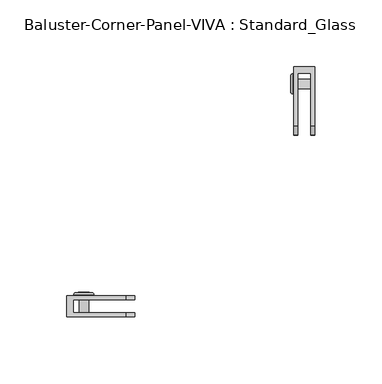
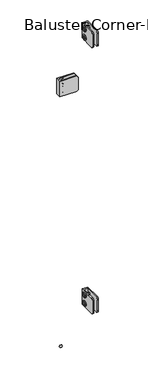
"""IFC4 building model written with IfcOpenShell, lengths in millimetres: railing geometry, Baluster-Corner-Panel-VIVA : Standard_Glass."""

from ifc_helpers import new_model, si_unit, point, frame, origin, place, context, project, spatial, polyline, circle_curve, ellipse_curve, trimmed, outline, extrude, source, transform, mapped, element, save
from ifc_brep_helpers import plane_surface, cylinder_surface, revolved_surface, advanced_brep


def baluster_corner_panel_viva_standard_glass_794ac712(model_context):
    return source(origin(), model_context, "Body", "SolidModel", [
        extrude(outline(polyline([(138.3474575, 917.178125), (136.3004934, 913.6326791), (132.2065651, 913.6326791), (130.1596009, 917.178125), (132.2065651, 920.7235709), (136.3004934, 920.7235709), (138.3474575, 917.178125)])), frame((21.7024185, 0.0, 0.0), z_axis=(1.0, 0.0, 0.0), x_axis=(0.0, 1.0, 0.0)), (0.0, 0.0, 1.0), 1.4969696),
        advanced_brep(
        [(36.7665, 137.7989752, 917.178125), (36.7665, 130.7080833, 917.178125), (24.0665, 130.7080833, 917.178125), (24.0665, 137.7989752, 917.178125), (24.0665, 126.8457402, 917.178125), (24.0665, 141.6613183, 917.178125), (23.199388, 135.9096046, 917.178125), (23.199388, 132.5974539, 917.178125), (36.7665, 132.5974539, 917.178125), (36.7665, 135.9096046, 917.178125), (23.2316551, 141.6613183, 917.178125), (23.2316551, 126.8457402, 917.178125), (21.9503831, 128.1270122, 917.178125), (21.9503831, 140.3800463, 917.178125), (21.9503831, 129.9549337, 917.178125), (21.9503831, 138.5521248, 917.178125), (23.199388, 129.9549337, 917.178125), (23.199388, 138.5521248, 917.178125)],
        [
            (0, 1, circle_curve(frame((36.7665, 134.2535292, 917.178125), z_axis=(-1.0, 0.0, 0.0), x_axis=(0.0, -1.0, 0.0)), 3.5454459)),
            (1, 2),
            (2, 3, circle_curve(frame((24.0665, 134.2535292, 917.178125), z_axis=(1.0, 0.0, 0.0), x_axis=(0.0, -1.0, 0.0)), 3.5454459)),
            (3, 0),
            (1, 0, circle_curve(frame((36.7665, 134.2535292, 917.178125), z_axis=(-1.0, 0.0, 0.0), x_axis=(0.0, -1.0, 0.0)), 3.5454459)),
            (3, 2, circle_curve(frame((24.0665, 134.2535292, 917.178125), z_axis=(1.0, 0.0, 0.0), x_axis=(0.0, -1.0, 0.0)), 3.5454459)),
            (2, 4),
            (4, 5, circle_curve(frame((24.0665, 134.2535292, 917.178125), z_axis=(1.0, 0.0, 0.0), x_axis=(0.0, -1.0, 0.0)), 7.4077891)),
            (5, 3),
            (5, 4, circle_curve(frame((24.0665, 134.2535292, 917.178125), z_axis=(1.0, 0.0, 0.0), x_axis=(0.0, -1.0, 0.0)), 7.4077891)),
            (6, 7, circle_curve(frame((23.199388, 134.2535292, 917.178125), z_axis=(-1.0, 0.0, 0.0), x_axis=(0.0, -1.0, 0.0)), 1.6560754)),
            (7, 8),
            (8, 9, circle_curve(frame((36.7665, 134.2535292, 917.178125), z_axis=(1.0, 0.0, 0.0), x_axis=(0.0, -1.0, 0.0)), 1.6560754)),
            (9, 6),
            (7, 6, circle_curve(frame((23.199388, 134.2535292, 917.178125), z_axis=(-1.0, 0.0, 0.0), x_axis=(0.0, -1.0, 0.0)), 1.6560754)),
            (9, 8, circle_curve(frame((36.7665, 134.2535292, 917.178125), z_axis=(1.0, 0.0, 0.0), x_axis=(0.0, -1.0, 0.0)), 1.6560754)),
            (10, 11, circle_curve(frame((23.2316551, 134.2535292, 917.178125), z_axis=(-1.0, 0.0, 0.0), x_axis=(0.0, -1.0, 0.0)), 7.4077891)),
            (11, 12, circle_curve(frame((23.2316551, 128.1270122, 917.178125), z_axis=(0.0, 0.0, -1.0), x_axis=(0.0, -1.0, 0.0)), 1.281272)),
            (12, 13, circle_curve(frame((21.9503831, 134.2535292, 917.178125), z_axis=(1.0, 0.0, 0.0), x_axis=(0.0, -1.0, 0.0)), 6.1265171)),
            (13, 10, circle_curve(frame((23.2316551, 140.3800463, 917.178125), z_axis=(0.0, 0.0, -1.0), x_axis=(0.0, 1.0, 0.0)), 1.281272)),
            (11, 10, circle_curve(frame((23.2316551, 134.2535292, 917.178125), z_axis=(-1.0, 0.0, 0.0), x_axis=(0.0, -1.0, 0.0)), 7.4077891)),
            (13, 12, circle_curve(frame((21.9503831, 134.2535292, 917.178125), z_axis=(1.0, 0.0, 0.0), x_axis=(0.0, -1.0, 0.0)), 6.1265171)),
            (12, 14),
            (14, 15, circle_curve(frame((21.9503831, 134.2535292, 917.178125), z_axis=(1.0, 0.0, 0.0), x_axis=(0.0, -1.0, 0.0)), 4.2985955)),
            (15, 13),
            (15, 14, circle_curve(frame((21.9503831, 134.2535292, 917.178125), z_axis=(1.0, 0.0, 0.0), x_axis=(0.0, -1.0, 0.0)), 4.2985955)),
            (4, 11),
            (10, 5),
            (8, 1),
            (0, 9),
            (14, 16),
            (16, 17, circle_curve(frame((23.199388, 134.2535292, 917.178125), z_axis=(1.0, 0.0, 0.0), x_axis=(0.0, -1.0, 0.0)), 4.2985955)),
            (17, 15),
            (17, 16, circle_curve(frame((23.199388, 134.2535292, 917.178125), z_axis=(1.0, 0.0, 0.0), x_axis=(0.0, -1.0, 0.0)), 4.2985955)),
            (16, 7),
            (6, 17),
        ],
        [
            cylinder_surface(frame((27.5632331, 134.2535292, 917.178125), z_axis=(1.0, 0.0, 0.0), x_axis=(0.0, -1.0, 0.0)), 3.5454459),
            plane_surface(frame((24.0665, 134.2535292, 917.178125), z_axis=(1.0, 0.0, 0.0), x_axis=(0.0, -1.0, 0.0))),
            revolved_surface(polyline([(36.7665, 132.5974538, 917.178125), (23.199388, 132.5974538, 917.178125)]), (27.5632331, 134.2535292, 917.178125), (1.0, 0.0, 0.0)),
            revolved_surface(trimmed(ellipse_curve(frame((23.2316551, 128.1270122, 917.178125), z_axis=(0.0, 0.0, 1.0), x_axis=(0.0, -1.0, 0.0)), 1.281272, 1.281272), [point((21.9503831, 128.1270122, 917.178125))], [point((23.2316551, 126.8457402, 917.178125))], True, "CARTESIAN"), (27.5632331, 134.2535292, 917.178125), (1.0, 0.0, 0.0)),
            plane_surface(frame((21.9503831, 134.2535292, 917.178125), z_axis=(-1.0, 0.0, 0.0), x_axis=(0.0, -1.0, 0.0))),
            cylinder_surface(frame((27.5632331, 134.2535292, 917.178125), z_axis=(1.0, 0.0, 0.0), x_axis=(0.0, -1.0, 0.0)), 7.4077891),
            plane_surface(frame((36.7665, 134.2535292, 917.178125), z_axis=(1.0, 0.0, 0.0), x_axis=(0.0, -1.0, 0.0))),
            revolved_surface(polyline([(23.199388, 129.9549337, 917.178125), (21.9503831, 129.9549337, 917.178125)]), (27.5632331, 134.2535292, 917.178125), (1.0, 0.0, 0.0)),
            plane_surface(frame((23.199388, 134.2535292, 917.178125), z_axis=(-1.0, 0.0, 0.0), x_axis=(0.0, -1.0, 0.0))),
        ],
        [
            (0, [[1, 2, 3, 4]]),
            (0, [[5, -4, 6, -2]]),
            (1, [[-3, 7, 8, 9]]),
            (1, [[-6, -9, 10, -7]]),
            (2, [[11, 12, 13, 14]]),
            (2, [[15, -14, 16, -12]]),
            (3, [[17, 18, 19, 20]]),
            (3, [[21, -20, 22, -18]]),
            (4, [[-19, 23, 24, 25]]),
            (4, [[-22, -25, 26, -23]]),
            (5, [[-8, 27, -17, 28]]),
            (5, [[-10, -28, -21, -27]]),
            (6, [[-13, 29, -1, 30]]),
            (6, [[-16, -30, -5, -29]]),
            (7, [[-24, 31, 32, 33]]),
            (7, [[-26, -33, 34, -31]]),
            (8, [[-32, 35, -11, 36]]),
            (8, [[-34, -36, -15, -35]]),
        ],
    ),
        advanced_brep(
        [(36.7665, 137.7989752, 892.571875), (36.7665, 130.7080833, 892.571875), (24.0665, 130.7080833, 892.571875), (24.0665, 137.7989752, 892.571875), (24.0665, 126.8457402, 892.571875), (24.0665, 141.6613183, 892.571875), (23.199388, 135.9096046, 892.571875), (23.199388, 132.5974539, 892.571875), (36.7665, 132.5974539, 892.571875), (36.7665, 135.9096046, 892.571875), (23.2316551, 141.6613183, 892.571875), (23.2316551, 126.8457402, 892.571875), (21.9503831, 128.1270122, 892.571875), (21.9503831, 140.3800463, 892.571875), (21.9503831, 129.9549337, 892.571875), (21.9503831, 138.5521248, 892.571875), (23.199388, 129.9549337, 892.571875), (23.199388, 138.5521248, 892.571875)],
        [
            (0, 1, circle_curve(frame((36.7665, 134.2535292, 892.571875), z_axis=(-1.0, 0.0, 0.0), x_axis=(0.0, -1.0, 0.0)), 3.5454459)),
            (1, 2),
            (2, 3, circle_curve(frame((24.0665, 134.2535292, 892.571875), z_axis=(1.0, 0.0, 0.0), x_axis=(0.0, -1.0, 0.0)), 3.5454459)),
            (3, 0),
            (1, 0, circle_curve(frame((36.7665, 134.2535292, 892.571875), z_axis=(-1.0, 0.0, 0.0), x_axis=(0.0, -1.0, 0.0)), 3.5454459)),
            (3, 2, circle_curve(frame((24.0665, 134.2535292, 892.571875), z_axis=(1.0, 0.0, 0.0), x_axis=(0.0, -1.0, 0.0)), 3.5454459)),
            (2, 4),
            (4, 5, circle_curve(frame((24.0665, 134.2535292, 892.571875), z_axis=(1.0, 0.0, 0.0), x_axis=(0.0, -1.0, 0.0)), 7.4077891)),
            (5, 3),
            (5, 4, circle_curve(frame((24.0665, 134.2535292, 892.571875), z_axis=(1.0, 0.0, 0.0), x_axis=(0.0, -1.0, 0.0)), 7.4077891)),
            (6, 7, circle_curve(frame((23.199388, 134.2535292, 892.571875), z_axis=(-1.0, 0.0, 0.0), x_axis=(0.0, -1.0, 0.0)), 1.6560754)),
            (7, 8),
            (8, 9, circle_curve(frame((36.7665, 134.2535292, 892.571875), z_axis=(1.0, 0.0, 0.0), x_axis=(0.0, -1.0, 0.0)), 1.6560754)),
            (9, 6),
            (7, 6, circle_curve(frame((23.199388, 134.2535292, 892.571875), z_axis=(-1.0, 0.0, 0.0), x_axis=(0.0, -1.0, 0.0)), 1.6560754)),
            (9, 8, circle_curve(frame((36.7665, 134.2535292, 892.571875), z_axis=(1.0, 0.0, 0.0), x_axis=(0.0, -1.0, 0.0)), 1.6560754)),
            (10, 11, circle_curve(frame((23.2316551, 134.2535292, 892.571875), z_axis=(-1.0, 0.0, 0.0), x_axis=(0.0, -1.0, 0.0)), 7.4077891)),
            (11, 12, circle_curve(frame((23.2316551, 128.1270122, 892.571875), z_axis=(0.0, 0.0, -1.0), x_axis=(0.0, -1.0, 0.0)), 1.281272)),
            (12, 13, circle_curve(frame((21.9503831, 134.2535292, 892.571875), z_axis=(1.0, 0.0, 0.0), x_axis=(0.0, -1.0, 0.0)), 6.1265171)),
            (13, 10, circle_curve(frame((23.2316551, 140.3800463, 892.571875), z_axis=(0.0, 0.0, -1.0), x_axis=(0.0, 1.0, 0.0)), 1.281272)),
            (11, 10, circle_curve(frame((23.2316551, 134.2535292, 892.571875), z_axis=(-1.0, 0.0, 0.0), x_axis=(0.0, -1.0, 0.0)), 7.4077891)),
            (13, 12, circle_curve(frame((21.9503831, 134.2535292, 892.571875), z_axis=(1.0, 0.0, 0.0), x_axis=(0.0, -1.0, 0.0)), 6.1265171)),
            (12, 14),
            (14, 15, circle_curve(frame((21.9503831, 134.2535292, 892.571875), z_axis=(1.0, 0.0, 0.0), x_axis=(0.0, -1.0, 0.0)), 4.2985955)),
            (15, 13),
            (15, 14, circle_curve(frame((21.9503831, 134.2535292, 892.571875), z_axis=(1.0, 0.0, 0.0), x_axis=(0.0, -1.0, 0.0)), 4.2985955)),
            (8, 1),
            (0, 9),
            (4, 11),
            (10, 5),
            (14, 16),
            (16, 17, circle_curve(frame((23.199388, 134.2535292, 892.571875), z_axis=(1.0, 0.0, 0.0), x_axis=(0.0, -1.0, 0.0)), 4.2985955)),
            (17, 15),
            (17, 16, circle_curve(frame((23.199388, 134.2535292, 892.571875), z_axis=(1.0, 0.0, 0.0), x_axis=(0.0, -1.0, 0.0)), 4.2985955)),
            (16, 7),
            (6, 17),
        ],
        [
            cylinder_surface(frame((27.5632331, 134.2535292, 892.571875), z_axis=(1.0, 0.0, 0.0), x_axis=(0.0, -1.0, 0.0)), 3.5454459),
            plane_surface(frame((24.0665, 134.2535292, 892.571875), z_axis=(1.0, 0.0, 0.0), x_axis=(0.0, -1.0, 0.0))),
            revolved_surface(polyline([(36.7665, 132.5974538, 892.571875), (23.199388, 132.5974538, 892.571875)]), (27.5632331, 134.2535292, 892.571875), (1.0, 0.0, 0.0)),
            revolved_surface(trimmed(ellipse_curve(frame((23.2316551, 128.1270122, 892.571875), z_axis=(0.0, 0.0, 1.0), x_axis=(0.0, -1.0, 0.0)), 1.281272, 1.281272), [point((21.9503831, 128.1270122, 892.571875))], [point((23.2316551, 126.8457402, 892.571875))], True, "CARTESIAN"), (27.5632331, 134.2535292, 892.571875), (1.0, 0.0, 0.0)),
            plane_surface(frame((21.9503831, 134.2535292, 892.571875), z_axis=(-1.0, 0.0, 0.0), x_axis=(0.0, -1.0, 0.0))),
            plane_surface(frame((36.7665, 134.2535292, 892.571875), z_axis=(1.0, 0.0, 0.0), x_axis=(0.0, -1.0, 0.0))),
            cylinder_surface(frame((27.5632331, 134.2535292, 892.571875), z_axis=(1.0, 0.0, 0.0), x_axis=(0.0, -1.0, 0.0)), 7.4077891),
            revolved_surface(polyline([(23.199388, 129.9549337, 892.571875), (21.9503831, 129.9549337, 892.571875)]), (27.5632331, 134.2535292, 892.571875), (1.0, 0.0, 0.0)),
            plane_surface(frame((23.199388, 134.2535292, 892.571875), z_axis=(-1.0, 0.0, 0.0), x_axis=(0.0, -1.0, 0.0))),
        ],
        [
            (0, [[1, 2, 3, 4]]),
            (0, [[5, -4, 6, -2]]),
            (1, [[-3, 7, 8, 9]]),
            (1, [[-6, -9, 10, -7]]),
            (2, [[11, 12, 13, 14]]),
            (2, [[15, -14, 16, -12]]),
            (3, [[17, 18, 19, 20]]),
            (3, [[21, -20, 22, -18]]),
            (4, [[-19, 23, 24, 25]]),
            (4, [[-22, -25, 26, -23]]),
            (5, [[-13, 27, -1, 28]]),
            (5, [[-16, -28, -5, -27]]),
            (6, [[-8, 29, -17, 30]]),
            (6, [[-10, -30, -21, -29]]),
            (7, [[-24, 31, 32, 33]]),
            (7, [[-26, -33, 34, -31]]),
            (8, [[-32, 35, -11, 36]]),
            (8, [[-34, -36, -15, -35]]),
        ],
    ),
        extrude(outline(polyline([(138.3474575, 892.571875), (136.3004934, 889.0264291), (132.2065651, 889.0264291), (130.1596009, 892.571875), (132.2065651, 896.1173209), (136.3004934, 896.1173209), (138.3474575, 892.571875)])), frame((21.7024185, 0.0, 0.0), z_axis=(1.0, 0.0, 0.0), x_axis=(0.0, 1.0, 0.0)), (0.0, 0.0, 1.0), 1.4969696),
        advanced_brep(
        [(24.0665, 146.886874, 927.1), (24.0665, 146.886874, 882.65), (24.0665, 102.436874, 882.65), (24.0665, 96.086874, 889.0), (24.0665, 96.086874, 920.75), (24.0665, 102.436874, 927.1), (39.9415, 146.886874, 927.1), (39.9415, 102.436874, 927.1), (39.9415, 96.086874, 920.75), (39.9415, 96.086874, 889.0), (39.9415, 102.436874, 882.65), (39.9415, 146.886874, 882.65), (36.7665, 102.436874, 882.65), (36.7665, 142.1687936, 882.65), (27.2415, 142.1687936, 882.65), (27.2415, 102.436874, 882.65), (36.7665, 142.1687936, 927.1), (27.2415, 142.1687936, 927.1), (27.2415, 102.436874, 927.1), (27.2415, 96.086874, 920.75), (27.2415, 96.086874, 889.0), (36.7665, 96.086874, 889.0), (36.7665, 96.086874, 920.75), (36.7665, 102.436874, 927.1)],
        [
            (0, 1),
            (1, 2),
            (2, 3, circle_curve(frame((24.0665, 102.436874, 889.0), z_axis=(-1.0, 0.0, 0.0), x_axis=(0.0, -1.0, 0.0)), 6.35)),
            (3, 4),
            (4, 5, circle_curve(frame((24.0665, 102.436874, 920.75), z_axis=(-1.0, 0.0, 0.0), x_axis=(0.0, -1.0, 0.0)), 6.35)),
            (5, 0),
            (6, 7),
            (7, 8, circle_curve(frame((39.9415, 102.436874, 920.75), z_axis=(1.0, 0.0, 0.0), x_axis=(0.0, -1.0, 0.0)), 6.35)),
            (8, 9),
            (9, 10, circle_curve(frame((39.9415, 102.436874, 889.0), z_axis=(1.0, 0.0, 0.0), x_axis=(0.0, -1.0, 0.0)), 6.35)),
            (10, 11),
            (11, 6),
            (0, 6),
            (11, 1),
            (10, 12),
            (12, 13),
            (13, 14),
            (14, 15),
            (15, 2),
            (13, 16),
            (16, 17),
            (17, 14),
            (17, 18),
            (18, 19, circle_curve(frame((27.2415, 102.436874, 920.75), z_axis=(1.0, 0.0, 0.0), x_axis=(0.0, -1.0, 0.0)), 6.35)),
            (19, 20),
            (20, 15, circle_curve(frame((27.2415, 102.436874, 889.0), z_axis=(1.0, 0.0, 0.0), x_axis=(0.0, -1.0, 0.0)), 6.35)),
            (12, 21, circle_curve(frame((36.7665, 102.436874, 889.0), z_axis=(-1.0, 0.0, 0.0), x_axis=(0.0, -1.0, 0.0)), 6.35)),
            (21, 22),
            (22, 23, circle_curve(frame((36.7665, 102.436874, 920.75), z_axis=(-1.0, 0.0, 0.0), x_axis=(0.0, -1.0, 0.0)), 6.35)),
            (23, 16),
            (20, 3),
            (9, 21),
            (19, 4),
            (8, 22),
            (18, 5),
            (7, 23),
        ],
        [
            plane_surface(frame((24.0665, 146.886874, 882.65), z_axis=(-1.0, 0.0, 0.0), x_axis=(0.0, 0.0, -1.0))),
            plane_surface(frame((39.9415, 146.886874, 882.65), z_axis=(1.0, 0.0, 0.0), x_axis=(0.0, 0.0, 1.0))),
            plane_surface(frame((24.0665, 146.886874, 927.1), z_axis=(0.0, 1.0, 0.0), x_axis=(1.0, 0.0, 0.0))),
            plane_surface(frame((24.0665, 146.886874, 882.65), z_axis=(0.0, 0.0, -1.0), x_axis=(1.0, 0.0, 0.0))),
            plane_surface(frame((36.7665, 142.1687936, 939.8), z_axis=(0.0, -1.0, 0.0), x_axis=(0.0, 0.0, -1.0))),
            plane_surface(frame((27.2415, 142.1687936, 939.8), z_axis=(1.0, 0.0, 0.0), x_axis=(0.0, 0.0, -1.0))),
            plane_surface(frame((36.7665, 83.386874, 939.8), z_axis=(-1.0, 0.0, 0.0), x_axis=(0.0, 0.0, -1.0))),
            cylinder_surface(frame((39.9415, 102.436874, 889.0), z_axis=(-1.0, 0.0, 0.0), x_axis=(0.0, -1.0, 0.0)), 6.35),
            plane_surface(frame((24.0665, 96.086874, 889.0), z_axis=(0.0, -1.0, 0.0), x_axis=(1.0, 0.0, 0.0))),
            cylinder_surface(frame((39.9415, 102.436874, 920.75), z_axis=(-1.0, 0.0, 0.0), x_axis=(0.0, -1.0, 0.0)), 6.35),
            plane_surface(frame((24.0665, 102.436874, 927.1), z_axis=(0.0, 0.0, 1.0), x_axis=(1.0, 0.0, 0.0))),
        ],
        [
            (0, [[1, 2, 3, 4, 5, 6]]),
            (1, [[7, 8, 9, 10, 11, 12]]),
            (2, [[-1, 13, -12, 14]]),
            (3, [[-2, -14, -11, 15, 16, 17, 18, 19]]),
            (4, [[20, 21, 22, -17]]),
            (5, [[-22, 23, 24, 25, 26, -18]]),
            (6, [[-20, -16, 27, 28, 29, 30]]),
            (7, [[-3, -19, -26, 31]]),
            (7, [[-10, 32, -27, -15]]),
            (8, [[-4, -31, -25, 33]]),
            (8, [[-9, 34, -28, -32]]),
            (9, [[-5, -33, -24, 35]]),
            (9, [[-8, 36, -29, -34]]),
            (10, [[-6, -35, -23, -21, -30, -36, -7, -13]]),
        ],
    ),
        extrude(outline(polyline([(138.3474575, 138.7358896), (136.3004934, 135.1904437), (132.2065651, 135.1904437), (130.1596009, 138.7358896), (132.2065651, 142.2813355), (136.3004934, 142.2813355), (138.3474575, 138.7358896)])), frame((21.7024185, 0.0, 0.0), z_axis=(1.0, 0.0, 0.0), x_axis=(0.0, 1.0, 0.0)), (0.0, 0.0, 1.0), 1.4969696),
        advanced_brep(
        [(36.7665, 137.7989752, 138.7358896), (36.7665, 130.7080833, 138.7358896), (24.0665, 130.7080833, 138.7358896), (24.0665, 137.7989752, 138.7358896), (24.0665, 126.8457402, 138.7358896), (24.0665, 141.6613183, 138.7358896), (23.199388, 135.9096046, 138.7358896), (23.199388, 132.5974539, 138.7358896), (36.7665, 132.5974539, 138.7358896), (36.7665, 135.9096046, 138.7358896), (23.2316551, 141.6613183, 138.7358896), (23.2316551, 126.8457402, 138.7358896), (21.9503831, 128.1270122, 138.7358896), (21.9503831, 140.3800463, 138.7358896), (21.9503831, 129.9549337, 138.7358896), (21.9503831, 138.5521248, 138.7358896), (23.199388, 129.9549337, 138.7358896), (23.199388, 138.5521248, 138.7358896)],
        [
            (0, 1, circle_curve(frame((36.7665, 134.2535292, 138.7358896), z_axis=(-1.0, 0.0, 0.0), x_axis=(0.0, -1.0, 0.0)), 3.5454459)),
            (1, 2),
            (2, 3, circle_curve(frame((24.0665, 134.2535292, 138.7358896), z_axis=(1.0, 0.0, 0.0), x_axis=(0.0, -1.0, 0.0)), 3.5454459)),
            (3, 0),
            (1, 0, circle_curve(frame((36.7665, 134.2535292, 138.7358896), z_axis=(-1.0, 0.0, 0.0), x_axis=(0.0, -1.0, 0.0)), 3.5454459)),
            (3, 2, circle_curve(frame((24.0665, 134.2535292, 138.7358896), z_axis=(1.0, 0.0, 0.0), x_axis=(0.0, -1.0, 0.0)), 3.5454459)),
            (2, 4),
            (4, 5, circle_curve(frame((24.0665, 134.2535292, 138.7358896), z_axis=(1.0, 0.0, 0.0), x_axis=(0.0, -1.0, 0.0)), 7.4077891)),
            (5, 3),
            (5, 4, circle_curve(frame((24.0665, 134.2535292, 138.7358896), z_axis=(1.0, 0.0, 0.0), x_axis=(0.0, -1.0, 0.0)), 7.4077891)),
            (6, 7, circle_curve(frame((23.199388, 134.2535292, 138.7358896), z_axis=(-1.0, 0.0, 0.0), x_axis=(0.0, -1.0, 0.0)), 1.6560754)),
            (7, 8),
            (8, 9, circle_curve(frame((36.7665, 134.2535292, 138.7358896), z_axis=(1.0, 0.0, 0.0), x_axis=(0.0, -1.0, 0.0)), 1.6560754)),
            (9, 6),
            (7, 6, circle_curve(frame((23.199388, 134.2535292, 138.7358896), z_axis=(-1.0, 0.0, 0.0), x_axis=(0.0, -1.0, 0.0)), 1.6560754)),
            (9, 8, circle_curve(frame((36.7665, 134.2535292, 138.7358896), z_axis=(1.0, 0.0, 0.0), x_axis=(0.0, -1.0, 0.0)), 1.6560754)),
            (10, 11, circle_curve(frame((23.2316551, 134.2535292, 138.7358896), z_axis=(-1.0, 0.0, 0.0), x_axis=(0.0, -1.0, 0.0)), 7.4077891)),
            (11, 12, circle_curve(frame((23.2316551, 128.1270122, 138.7358896), z_axis=(0.0, 0.0, -1.0), x_axis=(0.0, -1.0, 0.0)), 1.281272)),
            (12, 13, circle_curve(frame((21.9503831, 134.2535292, 138.7358896), z_axis=(1.0, 0.0, 0.0), x_axis=(0.0, -1.0, 0.0)), 6.1265171)),
            (13, 10, circle_curve(frame((23.2316551, 140.3800463, 138.7358896), z_axis=(0.0, 0.0, -1.0), x_axis=(0.0, 1.0, 0.0)), 1.281272)),
            (11, 10, circle_curve(frame((23.2316551, 134.2535292, 138.7358896), z_axis=(-1.0, 0.0, 0.0), x_axis=(0.0, -1.0, 0.0)), 7.4077891)),
            (13, 12, circle_curve(frame((21.9503831, 134.2535292, 138.7358896), z_axis=(1.0, 0.0, 0.0), x_axis=(0.0, -1.0, 0.0)), 6.1265171)),
            (12, 14),
            (14, 15, circle_curve(frame((21.9503831, 134.2535292, 138.7358896), z_axis=(1.0, 0.0, 0.0), x_axis=(0.0, -1.0, 0.0)), 4.2985955)),
            (15, 13),
            (15, 14, circle_curve(frame((21.9503831, 134.2535292, 138.7358896), z_axis=(1.0, 0.0, 0.0), x_axis=(0.0, -1.0, 0.0)), 4.2985955)),
            (4, 11),
            (10, 5),
            (8, 1),
            (0, 9),
            (14, 16),
            (16, 17, circle_curve(frame((23.199388, 134.2535292, 138.7358896), z_axis=(1.0, 0.0, 0.0), x_axis=(0.0, -1.0, 0.0)), 4.2985955)),
            (17, 15),
            (17, 16, circle_curve(frame((23.199388, 134.2535292, 138.7358896), z_axis=(1.0, 0.0, 0.0), x_axis=(0.0, -1.0, 0.0)), 4.2985955)),
            (16, 7),
            (6, 17),
        ],
        [
            cylinder_surface(frame((27.5632331, 134.2535292, 138.7358896), z_axis=(1.0, 0.0, 0.0), x_axis=(0.0, -1.0, 0.0)), 3.5454459),
            plane_surface(frame((24.0665, 134.2535292, 138.7358896), z_axis=(1.0, 0.0, 0.0), x_axis=(0.0, -1.0, 0.0))),
            revolved_surface(polyline([(36.7665, 132.5974538, 138.7358896), (23.199388, 132.5974538, 138.7358896)]), (27.5632331, 134.2535292, 138.7358896), (1.0, 0.0, 0.0)),
            revolved_surface(trimmed(ellipse_curve(frame((23.2316551, 128.1270122, 138.7358896), z_axis=(0.0, 0.0, 1.0), x_axis=(0.0, -1.0, 0.0)), 1.281272, 1.281272), [point((21.9503831, 128.1270122, 138.7358896))], [point((23.2316551, 126.8457402, 138.7358896))], True, "CARTESIAN"), (27.5632331, 134.2535292, 138.7358896), (1.0, 0.0, 0.0)),
            plane_surface(frame((21.9503831, 134.2535292, 138.7358896), z_axis=(-1.0, 0.0, 0.0), x_axis=(0.0, -1.0, 0.0))),
            cylinder_surface(frame((27.5632331, 134.2535292, 138.7358896), z_axis=(1.0, 0.0, 0.0), x_axis=(0.0, -1.0, 0.0)), 7.4077891),
            plane_surface(frame((36.7665, 134.2535292, 138.7358896), z_axis=(1.0, 0.0, 0.0), x_axis=(0.0, -1.0, 0.0))),
            revolved_surface(polyline([(23.199388, 129.9549337, 138.7358896), (21.9503831, 129.9549337, 138.7358896)]), (27.5632331, 134.2535292, 138.7358896), (1.0, 0.0, 0.0)),
            plane_surface(frame((23.199388, 134.2535292, 138.7358896), z_axis=(-1.0, 0.0, 0.0), x_axis=(0.0, -1.0, 0.0))),
        ],
        [
            (0, [[1, 2, 3, 4]]),
            (0, [[5, -4, 6, -2]]),
            (1, [[-3, 7, 8, 9]]),
            (1, [[-6, -9, 10, -7]]),
            (2, [[11, 12, 13, 14]]),
            (2, [[15, -14, 16, -12]]),
            (3, [[17, 18, 19, 20]]),
            (3, [[21, -20, 22, -18]]),
            (4, [[-19, 23, 24, 25]]),
            (4, [[-22, -25, 26, -23]]),
            (5, [[-8, 27, -17, 28]]),
            (5, [[-10, -28, -21, -27]]),
            (6, [[-13, 29, -1, 30]]),
            (6, [[-16, -30, -5, -29]]),
            (7, [[-24, 31, 32, 33]]),
            (7, [[-26, -33, 34, -31]]),
            (8, [[-32, 35, -11, 36]]),
            (8, [[-34, -36, -15, -35]]),
        ],
    ),
        advanced_brep(
        [(36.7665, 137.7989752, 114.1296396), (36.7665, 130.7080833, 114.1296396), (24.0665, 130.7080833, 114.1296396), (24.0665, 137.7989752, 114.1296396), (24.0665, 126.8457402, 114.1296396), (24.0665, 141.6613183, 114.1296396), (23.199388, 135.9096046, 114.1296396), (23.199388, 132.5974539, 114.1296396), (36.7665, 132.5974539, 114.1296396), (36.7665, 135.9096046, 114.1296396), (23.2316551, 141.6613183, 114.1296396), (23.2316551, 126.8457402, 114.1296396), (21.9503831, 128.1270122, 114.1296396), (21.9503831, 140.3800463, 114.1296396), (21.9503831, 129.9549337, 114.1296396), (21.9503831, 138.5521248, 114.1296396), (23.199388, 129.9549337, 114.1296396), (23.199388, 138.5521248, 114.1296396)],
        [
            (0, 1, circle_curve(frame((36.7665, 134.2535292, 114.1296396), z_axis=(-1.0, 0.0, 0.0), x_axis=(0.0, -1.0, 0.0)), 3.5454459)),
            (1, 2),
            (2, 3, circle_curve(frame((24.0665, 134.2535292, 114.1296396), z_axis=(1.0, 0.0, 0.0), x_axis=(0.0, -1.0, 0.0)), 3.5454459)),
            (3, 0),
            (1, 0, circle_curve(frame((36.7665, 134.2535292, 114.1296396), z_axis=(-1.0, 0.0, 0.0), x_axis=(0.0, -1.0, 0.0)), 3.5454459)),
            (3, 2, circle_curve(frame((24.0665, 134.2535292, 114.1296396), z_axis=(1.0, 0.0, 0.0), x_axis=(0.0, -1.0, 0.0)), 3.5454459)),
            (2, 4),
            (4, 5, circle_curve(frame((24.0665, 134.2535292, 114.1296396), z_axis=(1.0, 0.0, 0.0), x_axis=(0.0, -1.0, 0.0)), 7.4077891)),
            (5, 3),
            (5, 4, circle_curve(frame((24.0665, 134.2535292, 114.1296396), z_axis=(1.0, 0.0, 0.0), x_axis=(0.0, -1.0, 0.0)), 7.4077891)),
            (6, 7, circle_curve(frame((23.199388, 134.2535292, 114.1296396), z_axis=(-1.0, 0.0, 0.0), x_axis=(0.0, -1.0, 0.0)), 1.6560754)),
            (7, 8),
            (8, 9, circle_curve(frame((36.7665, 134.2535292, 114.1296396), z_axis=(1.0, 0.0, 0.0), x_axis=(0.0, -1.0, 0.0)), 1.6560754)),
            (9, 6),
            (7, 6, circle_curve(frame((23.199388, 134.2535292, 114.1296396), z_axis=(-1.0, 0.0, 0.0), x_axis=(0.0, -1.0, 0.0)), 1.6560754)),
            (9, 8, circle_curve(frame((36.7665, 134.2535292, 114.1296396), z_axis=(1.0, 0.0, 0.0), x_axis=(0.0, -1.0, 0.0)), 1.6560754)),
            (10, 11, circle_curve(frame((23.2316551, 134.2535292, 114.1296396), z_axis=(-1.0, 0.0, 0.0), x_axis=(0.0, -1.0, 0.0)), 7.4077891)),
            (11, 12, circle_curve(frame((23.2316551, 128.1270122, 114.1296396), z_axis=(0.0, 0.0, -1.0), x_axis=(0.0, -1.0, 0.0)), 1.281272)),
            (12, 13, circle_curve(frame((21.9503831, 134.2535292, 114.1296396), z_axis=(1.0, 0.0, 0.0), x_axis=(0.0, -1.0, 0.0)), 6.1265171)),
            (13, 10, circle_curve(frame((23.2316551, 140.3800463, 114.1296396), z_axis=(0.0, 0.0, -1.0), x_axis=(0.0, 1.0, 0.0)), 1.281272)),
            (11, 10, circle_curve(frame((23.2316551, 134.2535292, 114.1296396), z_axis=(-1.0, 0.0, 0.0), x_axis=(0.0, -1.0, 0.0)), 7.4077891)),
            (13, 12, circle_curve(frame((21.9503831, 134.2535292, 114.1296396), z_axis=(1.0, 0.0, 0.0), x_axis=(0.0, -1.0, 0.0)), 6.1265171)),
            (12, 14),
            (14, 15, circle_curve(frame((21.9503831, 134.2535292, 114.1296396), z_axis=(1.0, 0.0, 0.0), x_axis=(0.0, -1.0, 0.0)), 4.2985955)),
            (15, 13),
            (15, 14, circle_curve(frame((21.9503831, 134.2535292, 114.1296396), z_axis=(1.0, 0.0, 0.0), x_axis=(0.0, -1.0, 0.0)), 4.2985955)),
            (8, 1),
            (0, 9),
            (4, 11),
            (10, 5),
            (14, 16),
            (16, 17, circle_curve(frame((23.199388, 134.2535292, 114.1296396), z_axis=(1.0, 0.0, 0.0), x_axis=(0.0, -1.0, 0.0)), 4.2985955)),
            (17, 15),
            (17, 16, circle_curve(frame((23.199388, 134.2535292, 114.1296396), z_axis=(1.0, 0.0, 0.0), x_axis=(0.0, -1.0, 0.0)), 4.2985955)),
            (16, 7),
            (6, 17),
        ],
        [
            cylinder_surface(frame((27.5632331, 134.2535292, 114.1296396), z_axis=(1.0, 0.0, 0.0), x_axis=(0.0, -1.0, 0.0)), 3.5454459),
            plane_surface(frame((24.0665, 134.2535292, 114.1296396), z_axis=(1.0, 0.0, 0.0), x_axis=(0.0, -1.0, 0.0))),
            revolved_surface(polyline([(36.7665, 132.5974538, 114.1296396), (23.199388, 132.5974538, 114.1296396)]), (27.5632331, 134.2535292, 114.1296396), (1.0, 0.0, 0.0)),
            revolved_surface(trimmed(ellipse_curve(frame((23.2316551, 128.1270122, 114.1296396), z_axis=(0.0, 0.0, 1.0), x_axis=(0.0, -1.0, 0.0)), 1.281272, 1.281272), [point((21.9503831, 128.1270122, 114.1296396))], [point((23.2316551, 126.8457402, 114.1296396))], True, "CARTESIAN"), (27.5632331, 134.2535292, 114.1296396), (1.0, 0.0, 0.0)),
            plane_surface(frame((21.9503831, 134.2535292, 114.1296396), z_axis=(-1.0, 0.0, 0.0), x_axis=(0.0, -1.0, 0.0))),
            plane_surface(frame((36.7665, 134.2535292, 114.1296396), z_axis=(1.0, 0.0, 0.0), x_axis=(0.0, -1.0, 0.0))),
            cylinder_surface(frame((27.5632331, 134.2535292, 114.1296396), z_axis=(1.0, 0.0, 0.0), x_axis=(0.0, -1.0, 0.0)), 7.4077891),
            revolved_surface(polyline([(23.199388, 129.9549337, 114.1296396), (21.9503831, 129.9549337, 114.1296396)]), (27.5632331, 134.2535292, 114.1296396), (1.0, 0.0, 0.0)),
            plane_surface(frame((23.199388, 134.2535292, 114.1296396), z_axis=(-1.0, 0.0, 0.0), x_axis=(0.0, -1.0, 0.0))),
        ],
        [
            (0, [[1, 2, 3, 4]]),
            (0, [[5, -4, 6, -2]]),
            (1, [[-3, 7, 8, 9]]),
            (1, [[-6, -9, 10, -7]]),
            (2, [[11, 12, 13, 14]]),
            (2, [[15, -14, 16, -12]]),
            (3, [[17, 18, 19, 20]]),
            (3, [[21, -20, 22, -18]]),
            (4, [[-19, 23, 24, 25]]),
            (4, [[-22, -25, 26, -23]]),
            (5, [[-13, 27, -1, 28]]),
            (5, [[-16, -28, -5, -27]]),
            (6, [[-8, 29, -17, 30]]),
            (6, [[-10, -30, -21, -29]]),
            (7, [[-24, 31, 32, 33]]),
            (7, [[-26, -33, 34, -31]]),
            (8, [[-32, 35, -11, 36]]),
            (8, [[-34, -36, -15, -35]]),
        ],
    ),
        extrude(outline(polyline([(138.3474575, 114.1296396), (136.3004934, 110.5841937), (132.2065651, 110.5841937), (130.1596009, 114.1296396), (132.2065651, 117.6750855), (136.3004934, 117.6750855), (138.3474575, 114.1296396)])), frame((21.7024185, 0.0, 0.0), z_axis=(1.0, 0.0, 0.0), x_axis=(0.0, 1.0, 0.0)), (0.0, 0.0, 1.0), 1.4969696),
        advanced_brep(
        [(24.0665, 146.886874, 148.6577646), (24.0665, 146.886874, 104.2077646), (24.0665, 102.436874, 104.2077646), (24.0665, 96.086874, 110.5577646), (24.0665, 96.086874, 142.3077646), (24.0665, 102.436874, 148.6577646), (39.9415, 146.886874, 148.6577646), (39.9415, 102.436874, 148.6577646), (39.9415, 96.086874, 142.3077646), (39.9415, 96.086874, 110.5577646), (39.9415, 102.436874, 104.2077646), (39.9415, 146.886874, 104.2077646), (36.7665, 102.436874, 104.2077646), (36.7665, 142.1687936, 104.2077646), (27.2415, 142.1687936, 104.2077646), (27.2415, 102.436874, 104.2077646), (36.7665, 142.1687936, 148.6577646), (27.2415, 142.1687936, 148.6577646), (27.2415, 102.436874, 148.6577646), (27.2415, 96.086874, 142.3077646), (27.2415, 96.086874, 110.5577646), (36.7665, 96.086874, 110.5577646), (36.7665, 96.086874, 142.3077646), (36.7665, 102.436874, 148.6577646)],
        [
            (0, 1),
            (1, 2),
            (2, 3, circle_curve(frame((24.0665, 102.436874, 110.5577646), z_axis=(-1.0, 0.0, 0.0), x_axis=(0.0, -1.0, 0.0)), 6.35)),
            (3, 4),
            (4, 5, circle_curve(frame((24.0665, 102.436874, 142.3077646), z_axis=(-1.0, 0.0, 0.0), x_axis=(0.0, -1.0, 0.0)), 6.35)),
            (5, 0),
            (6, 7),
            (7, 8, circle_curve(frame((39.9415, 102.436874, 142.3077646), z_axis=(1.0, 0.0, 0.0), x_axis=(0.0, -1.0, 0.0)), 6.35)),
            (8, 9),
            (9, 10, circle_curve(frame((39.9415, 102.436874, 110.5577646), z_axis=(1.0, 0.0, 0.0), x_axis=(0.0, -1.0, 0.0)), 6.35)),
            (10, 11),
            (11, 6),
            (0, 6),
            (11, 1),
            (10, 12),
            (12, 13),
            (13, 14),
            (14, 15),
            (15, 2),
            (13, 16),
            (16, 17),
            (17, 14),
            (17, 18),
            (18, 19, circle_curve(frame((27.2415, 102.436874, 142.3077646), z_axis=(1.0, 0.0, 0.0), x_axis=(0.0, -1.0, 0.0)), 6.35)),
            (19, 20),
            (20, 15, circle_curve(frame((27.2415, 102.436874, 110.5577646), z_axis=(1.0, 0.0, 0.0), x_axis=(0.0, -1.0, 0.0)), 6.35)),
            (12, 21, circle_curve(frame((36.7665, 102.436874, 110.5577646), z_axis=(-1.0, 0.0, 0.0), x_axis=(0.0, -1.0, 0.0)), 6.35)),
            (21, 22),
            (22, 23, circle_curve(frame((36.7665, 102.436874, 142.3077646), z_axis=(-1.0, 0.0, 0.0), x_axis=(0.0, -1.0, 0.0)), 6.35)),
            (23, 16),
            (20, 3),
            (9, 21),
            (19, 4),
            (8, 22),
            (18, 5),
            (7, 23),
        ],
        [
            plane_surface(frame((24.0665, 146.886874, 104.2077646), z_axis=(-1.0, 0.0, 0.0), x_axis=(0.0, 0.0, -1.0))),
            plane_surface(frame((39.9415, 146.886874, 104.2077646), z_axis=(1.0, 0.0, 0.0), x_axis=(0.0, 0.0, 1.0))),
            plane_surface(frame((24.0665, 146.886874, 148.6577646), z_axis=(0.0, 1.0, 0.0), x_axis=(1.0, 0.0, 0.0))),
            plane_surface(frame((24.0665, 146.886874, 104.2077646), z_axis=(0.0, 0.0, -1.0), x_axis=(1.0, 0.0, 0.0))),
            plane_surface(frame((36.7665, 142.1687936, 161.3577646), z_axis=(0.0, -1.0, 0.0), x_axis=(0.0, 0.0, -1.0))),
            plane_surface(frame((27.2415, 142.1687936, 161.3577646), z_axis=(1.0, 0.0, 0.0), x_axis=(0.0, 0.0, -1.0))),
            plane_surface(frame((36.7665, 83.386874, 161.3577646), z_axis=(-1.0, 0.0, 0.0), x_axis=(0.0, 0.0, -1.0))),
            cylinder_surface(frame((39.9415, 102.436874, 110.5577646), z_axis=(-1.0, 0.0, 0.0), x_axis=(0.0, -1.0, 0.0)), 6.35),
            plane_surface(frame((24.0665, 96.086874, 110.5577646), z_axis=(0.0, -1.0, 0.0), x_axis=(1.0, 0.0, 0.0))),
            cylinder_surface(frame((39.9415, 102.436874, 142.3077646), z_axis=(-1.0, 0.0, 0.0), x_axis=(0.0, -1.0, 0.0)), 6.35),
            plane_surface(frame((24.0665, 102.436874, 148.6577646), z_axis=(0.0, 0.0, 1.0), x_axis=(1.0, 0.0, 0.0))),
        ],
        [
            (0, [[1, 2, 3, 4, 5, 6]]),
            (1, [[7, 8, 9, 10, 11, 12]]),
            (2, [[-1, 13, -12, 14]]),
            (3, [[-2, -14, -11, 15, 16, 17, 18, 19]]),
            (4, [[20, 21, 22, -17]]),
            (5, [[-22, 23, 24, 25, 26, -18]]),
            (6, [[-20, -16, 27, 28, 29, 30]]),
            (7, [[-3, -19, -26, 31]]),
            (7, [[-10, 32, -27, -15]]),
            (8, [[-4, -31, -25, 33]]),
            (8, [[-9, 34, -28, -32]]),
            (9, [[-5, -33, -24, 35]]),
            (9, [[-8, 36, -29, -34]]),
            (10, [[-6, -35, -23, -21, -30, -36, -7, -13]]),
        ],
    ),
        extrude(outline(polyline([(917.178125, -136.8903972), (913.6326791, -134.843433), (913.6326791, -130.7495048), (917.178125, -128.7025406), (920.7235709, -130.7495048), (920.7235709, -134.843433), (917.178125, -136.8903972)])), frame((0.0, -23.199388, 0.0), z_axis=(0.0, 1.0, 0.0), x_axis=(0.0, 0.0, 1.0)), (0.0, 0.0, 1.0), 1.4969696),
        advanced_brep(
        [(-136.3419148, -36.7665, 917.178125), (-136.3419148, -24.0665, 917.178125), (-129.251023, -24.0665, 917.178125), (-129.251023, -36.7665, 917.178125), (-140.204258, -24.0665, 917.178125), (-125.3886798, -24.0665, 917.178125), (-134.4525443, -23.199388, 917.178125), (-134.4525443, -36.7665, 917.178125), (-131.1403935, -36.7665, 917.178125), (-131.1403935, -23.199388, 917.178125), (-140.204258, -23.2316551, 917.178125), (-138.922986, -21.9503831, 917.178125), (-126.6699518, -21.9503831, 917.178125), (-125.3886798, -23.2316551, 917.178125), (-137.0950644, -21.9503831, 917.178125), (-128.4978734, -21.9503831, 917.178125), (-137.0950644, -23.199388, 917.178125), (-128.4978734, -23.199388, 917.178125)],
        [
            (0, 1),
            (1, 2, circle_curve(frame((-132.7964689, -24.0665, 917.178125), z_axis=(0.0, -1.0, 0.0), x_axis=(1.0, 0.0, 0.0)), 3.5454459)),
            (2, 3),
            (3, 0, circle_curve(frame((-132.7964689, -36.7665, 917.178125), z_axis=(0.0, 1.0, 0.0), x_axis=(1.0, 0.0, 0.0)), 3.5454459)),
            (2, 1, circle_curve(frame((-132.7964689, -24.0665, 917.178125), z_axis=(0.0, -1.0, 0.0), x_axis=(1.0, 0.0, 0.0)), 3.5454459)),
            (0, 3, circle_curve(frame((-132.7964689, -36.7665, 917.178125), z_axis=(0.0, 1.0, 0.0), x_axis=(1.0, 0.0, 0.0)), 3.5454459)),
            (1, 4),
            (4, 5, circle_curve(frame((-132.7964689, -24.0665, 917.178125), z_axis=(0.0, -1.0, 0.0), x_axis=(1.0, 0.0, 0.0)), 7.4077891)),
            (5, 2),
            (5, 4, circle_curve(frame((-132.7964689, -24.0665, 917.178125), z_axis=(0.0, -1.0, 0.0), x_axis=(1.0, 0.0, 0.0)), 7.4077891)),
            (6, 7),
            (7, 8, circle_curve(frame((-132.7964689, -36.7665, 917.178125), z_axis=(0.0, -1.0, 0.0), x_axis=(1.0, 0.0, 0.0)), 1.6560754)),
            (8, 9),
            (9, 6, circle_curve(frame((-132.7964689, -23.199388, 917.178125), z_axis=(0.0, 1.0, 0.0), x_axis=(1.0, 0.0, 0.0)), 1.6560754)),
            (8, 7, circle_curve(frame((-132.7964689, -36.7665, 917.178125), z_axis=(0.0, -1.0, 0.0), x_axis=(1.0, 0.0, 0.0)), 1.6560754)),
            (6, 9, circle_curve(frame((-132.7964689, -23.199388, 917.178125), z_axis=(0.0, 1.0, 0.0), x_axis=(1.0, 0.0, 0.0)), 1.6560754)),
            (10, 11, circle_curve(frame((-138.922986, -23.2316551, 917.178125), z_axis=(0.0, 0.0, -1.0), x_axis=(-1.0, 0.0, 0.0)), 1.281272)),
            (11, 12, circle_curve(frame((-132.7964689, -21.9503831, 917.178125), z_axis=(0.0, -1.0, 0.0), x_axis=(1.0, 0.0, 0.0)), 6.1265171)),
            (12, 13, circle_curve(frame((-126.6699518, -23.2316551, 917.178125), z_axis=(0.0, 0.0, -1.0), x_axis=(1.0, 0.0, 0.0)), 1.281272)),
            (13, 10, circle_curve(frame((-132.7964689, -23.2316551, 917.178125), z_axis=(0.0, 1.0, 0.0), x_axis=(1.0, 0.0, 0.0)), 7.4077891)),
            (12, 11, circle_curve(frame((-132.7964689, -21.9503831, 917.178125), z_axis=(0.0, -1.0, 0.0), x_axis=(1.0, 0.0, 0.0)), 6.1265171)),
            (10, 13, circle_curve(frame((-132.7964689, -23.2316551, 917.178125), z_axis=(0.0, 1.0, 0.0), x_axis=(1.0, 0.0, 0.0)), 7.4077891)),
            (11, 14),
            (14, 15, circle_curve(frame((-132.7964689, -21.9503831, 917.178125), z_axis=(0.0, -1.0, 0.0), x_axis=(1.0, 0.0, 0.0)), 4.2985955)),
            (15, 12),
            (15, 14, circle_curve(frame((-132.7964689, -21.9503831, 917.178125), z_axis=(0.0, -1.0, 0.0), x_axis=(1.0, 0.0, 0.0)), 4.2985955)),
            (4, 10),
            (13, 5),
            (7, 0),
            (3, 8),
            (14, 16),
            (16, 17, circle_curve(frame((-132.7964689, -23.199388, 917.178125), z_axis=(0.0, -1.0, 0.0), x_axis=(1.0, 0.0, 0.0)), 4.2985955)),
            (17, 15),
            (17, 16, circle_curve(frame((-132.7964689, -23.199388, 917.178125), z_axis=(0.0, -1.0, 0.0), x_axis=(1.0, 0.0, 0.0)), 4.2985955)),
            (16, 6),
            (9, 17),
        ],
        [
            cylinder_surface(frame((-132.7964689, -27.5632331, 917.178125), z_axis=(0.0, -1.0, 0.0), x_axis=(1.0, 0.0, 0.0)), 3.5454459),
            plane_surface(frame((-132.7964689, -24.0665, 917.178125), z_axis=(0.0, -1.0, 0.0), x_axis=(1.0, 0.0, 0.0))),
            revolved_surface(polyline([(-131.14039350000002, -36.7665, 917.178125), (-131.14039350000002, -23.199388, 917.178125)]), (-132.7964689, -27.5632331, 917.178125), (0.0, -1.0, 0.0)),
            revolved_surface(trimmed(ellipse_curve(frame((-126.6699518, -23.2316551, 917.178125), z_axis=(0.0, 0.0, -1.0), x_axis=(1.0, 0.0, 0.0)), 1.281272, 1.281272), [point((-126.6699518, -21.9503831, 917.178125))], [point((-125.3886798, -23.2316551, 917.178125))], True, "CARTESIAN"), (-132.7964689, -27.5632331, 917.178125), (0.0, -1.0, 0.0)),
            plane_surface(frame((-132.7964689, -21.9503831, 917.178125), z_axis=(0.0, 1.0, 0.0), x_axis=(1.0, 0.0, 0.0))),
            cylinder_surface(frame((-132.7964689, -27.5632331, 917.178125), z_axis=(0.0, -1.0, 0.0), x_axis=(1.0, 0.0, 0.0)), 7.4077891),
            plane_surface(frame((-132.7964689, -36.7665, 917.178125), z_axis=(0.0, -1.0, 0.0), x_axis=(1.0, 0.0, 0.0))),
            revolved_surface(polyline([(-128.4978734, -23.199388, 917.178125), (-128.4978734, -21.9503831, 917.178125)]), (-132.7964689, -27.5632331, 917.178125), (0.0, -1.0, 0.0)),
            plane_surface(frame((-132.7964689, -23.199388, 917.178125), z_axis=(0.0, 1.0, 0.0), x_axis=(1.0, 0.0, 0.0))),
        ],
        [
            (0, [[1, 2, 3, 4]]),
            (0, [[-3, 5, -1, 6]]),
            (1, [[7, 8, 9, -2]]),
            (1, [[-9, 10, -7, -5]]),
            (2, [[11, 12, 13, 14]]),
            (2, [[-13, 15, -11, 16]]),
            (3, [[17, 18, 19, 20]]),
            (3, [[-19, 21, -17, 22]]),
            (4, [[23, 24, 25, -18]]),
            (4, [[-25, 26, -23, -21]]),
            (5, [[27, -20, 28, -8]]),
            (5, [[-28, -22, -27, -10]]),
            (6, [[29, -4, 30, -12]]),
            (6, [[-30, -6, -29, -15]]),
            (7, [[31, 32, 33, -24]]),
            (7, [[-33, 34, -31, -26]]),
            (8, [[35, -14, 36, -32]]),
            (8, [[-36, -16, -35, -34]]),
        ],
    ),
        advanced_brep(
        [(-136.3419148, -36.7665, 892.571875), (-136.3419148, -24.0665, 892.571875), (-129.251023, -24.0665, 892.571875), (-129.251023, -36.7665, 892.571875), (-140.204258, -24.0665, 892.571875), (-125.3886798, -24.0665, 892.571875), (-134.4525443, -23.199388, 892.571875), (-134.4525443, -36.7665, 892.571875), (-131.1403935, -36.7665, 892.571875), (-131.1403935, -23.199388, 892.571875), (-140.204258, -23.2316551, 892.571875), (-138.922986, -21.9503831, 892.571875), (-126.6699518, -21.9503831, 892.571875), (-125.3886798, -23.2316551, 892.571875), (-137.0950644, -21.9503831, 892.571875), (-128.4978734, -21.9503831, 892.571875), (-137.0950644, -23.199388, 892.571875), (-128.4978734, -23.199388, 892.571875)],
        [
            (0, 1),
            (1, 2, circle_curve(frame((-132.7964689, -24.0665, 892.571875), z_axis=(0.0, -1.0, 0.0), x_axis=(1.0, 0.0, 0.0)), 3.5454459)),
            (2, 3),
            (3, 0, circle_curve(frame((-132.7964689, -36.7665, 892.571875), z_axis=(0.0, 1.0, 0.0), x_axis=(1.0, 0.0, 0.0)), 3.5454459)),
            (2, 1, circle_curve(frame((-132.7964689, -24.0665, 892.571875), z_axis=(0.0, -1.0, 0.0), x_axis=(1.0, 0.0, 0.0)), 3.5454459)),
            (0, 3, circle_curve(frame((-132.7964689, -36.7665, 892.571875), z_axis=(0.0, 1.0, 0.0), x_axis=(1.0, 0.0, 0.0)), 3.5454459)),
            (1, 4),
            (4, 5, circle_curve(frame((-132.7964689, -24.0665, 892.571875), z_axis=(0.0, -1.0, 0.0), x_axis=(1.0, 0.0, 0.0)), 7.4077891)),
            (5, 2),
            (5, 4, circle_curve(frame((-132.7964689, -24.0665, 892.571875), z_axis=(0.0, -1.0, 0.0), x_axis=(1.0, 0.0, 0.0)), 7.4077891)),
            (6, 7),
            (7, 8, circle_curve(frame((-132.7964689, -36.7665, 892.571875), z_axis=(0.0, -1.0, 0.0), x_axis=(1.0, 0.0, 0.0)), 1.6560754)),
            (8, 9),
            (9, 6, circle_curve(frame((-132.7964689, -23.199388, 892.571875), z_axis=(0.0, 1.0, 0.0), x_axis=(1.0, 0.0, 0.0)), 1.6560754)),
            (8, 7, circle_curve(frame((-132.7964689, -36.7665, 892.571875), z_axis=(0.0, -1.0, 0.0), x_axis=(1.0, 0.0, 0.0)), 1.6560754)),
            (6, 9, circle_curve(frame((-132.7964689, -23.199388, 892.571875), z_axis=(0.0, 1.0, 0.0), x_axis=(1.0, 0.0, 0.0)), 1.6560754)),
            (10, 11, circle_curve(frame((-138.922986, -23.2316551, 892.571875), z_axis=(0.0, 0.0, -1.0), x_axis=(-1.0, 0.0, 0.0)), 1.281272)),
            (11, 12, circle_curve(frame((-132.7964689, -21.9503831, 892.571875), z_axis=(0.0, -1.0, 0.0), x_axis=(1.0, 0.0, 0.0)), 6.1265171)),
            (12, 13, circle_curve(frame((-126.6699518, -23.2316551, 892.571875), z_axis=(0.0, 0.0, -1.0), x_axis=(1.0, 0.0, 0.0)), 1.281272)),
            (13, 10, circle_curve(frame((-132.7964689, -23.2316551, 892.571875), z_axis=(0.0, 1.0, 0.0), x_axis=(1.0, 0.0, 0.0)), 7.4077891)),
            (12, 11, circle_curve(frame((-132.7964689, -21.9503831, 892.571875), z_axis=(0.0, -1.0, 0.0), x_axis=(1.0, 0.0, 0.0)), 6.1265171)),
            (10, 13, circle_curve(frame((-132.7964689, -23.2316551, 892.571875), z_axis=(0.0, 1.0, 0.0), x_axis=(1.0, 0.0, 0.0)), 7.4077891)),
            (11, 14),
            (14, 15, circle_curve(frame((-132.7964689, -21.9503831, 892.571875), z_axis=(0.0, -1.0, 0.0), x_axis=(1.0, 0.0, 0.0)), 4.2985955)),
            (15, 12),
            (15, 14, circle_curve(frame((-132.7964689, -21.9503831, 892.571875), z_axis=(0.0, -1.0, 0.0), x_axis=(1.0, 0.0, 0.0)), 4.2985955)),
            (7, 0),
            (3, 8),
            (4, 10),
            (13, 5),
            (14, 16),
            (16, 17, circle_curve(frame((-132.7964689, -23.199388, 892.571875), z_axis=(0.0, -1.0, 0.0), x_axis=(1.0, 0.0, 0.0)), 4.2985955)),
            (17, 15),
            (17, 16, circle_curve(frame((-132.7964689, -23.199388, 892.571875), z_axis=(0.0, -1.0, 0.0), x_axis=(1.0, 0.0, 0.0)), 4.2985955)),
            (16, 6),
            (9, 17),
        ],
        [
            cylinder_surface(frame((-132.7964689, -27.5632331, 892.571875), z_axis=(0.0, -1.0, 0.0), x_axis=(1.0, 0.0, 0.0)), 3.5454459),
            plane_surface(frame((-132.7964689, -24.0665, 892.571875), z_axis=(0.0, -1.0, 0.0), x_axis=(1.0, 0.0, 0.0))),
            revolved_surface(polyline([(-131.14039350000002, -36.7665, 892.571875), (-131.14039350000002, -23.199388, 892.571875)]), (-132.7964689, -27.5632331, 892.571875), (0.0, -1.0, 0.0)),
            revolved_surface(trimmed(ellipse_curve(frame((-126.6699518, -23.2316551, 892.571875), z_axis=(0.0, 0.0, -1.0), x_axis=(1.0, 0.0, 0.0)), 1.281272, 1.281272), [point((-126.6699518, -21.9503831, 892.571875))], [point((-125.3886798, -23.2316551, 892.571875))], True, "CARTESIAN"), (-132.7964689, -27.5632331, 892.571875), (0.0, -1.0, 0.0)),
            plane_surface(frame((-132.7964689, -21.9503831, 892.571875), z_axis=(0.0, 1.0, 0.0), x_axis=(1.0, 0.0, 0.0))),
            plane_surface(frame((-132.7964689, -36.7665, 892.571875), z_axis=(0.0, -1.0, 0.0), x_axis=(1.0, 0.0, 0.0))),
            cylinder_surface(frame((-132.7964689, -27.5632331, 892.571875), z_axis=(0.0, -1.0, 0.0), x_axis=(1.0, 0.0, 0.0)), 7.4077891),
            revolved_surface(polyline([(-128.4978734, -23.199388, 892.571875), (-128.4978734, -21.9503831, 892.571875)]), (-132.7964689, -27.5632331, 892.571875), (0.0, -1.0, 0.0)),
            plane_surface(frame((-132.7964689, -23.199388, 892.571875), z_axis=(0.0, 1.0, 0.0), x_axis=(1.0, 0.0, 0.0))),
        ],
        [
            (0, [[1, 2, 3, 4]]),
            (0, [[-3, 5, -1, 6]]),
            (1, [[7, 8, 9, -2]]),
            (1, [[-9, 10, -7, -5]]),
            (2, [[11, 12, 13, 14]]),
            (2, [[-13, 15, -11, 16]]),
            (3, [[17, 18, 19, 20]]),
            (3, [[-19, 21, -17, 22]]),
            (4, [[23, 24, 25, -18]]),
            (4, [[-25, 26, -23, -21]]),
            (5, [[27, -4, 28, -12]]),
            (5, [[-28, -6, -27, -15]]),
            (6, [[29, -20, 30, -8]]),
            (6, [[-30, -22, -29, -10]]),
            (7, [[31, 32, 33, -24]]),
            (7, [[-33, 34, -31, -26]]),
            (8, [[35, -14, 36, -32]]),
            (8, [[-36, -16, -35, -34]]),
        ],
    ),
        extrude(outline(polyline([(892.571875, -136.8903972), (889.0264291, -134.843433), (889.0264291, -130.7495048), (892.571875, -128.7025406), (896.1173209, -130.7495048), (896.1173209, -134.843433), (892.571875, -136.8903972)])), frame((0.0, -23.199388, 0.0), z_axis=(0.0, 1.0, 0.0), x_axis=(0.0, 0.0, 1.0)), (0.0, 0.0, 1.0), 1.4969696),
        advanced_brep(
        [(-145.4298137, -24.0665, 927.1), (-100.9798137, -24.0665, 927.1), (-94.6298137, -24.0665, 920.75), (-94.6298137, -24.0665, 889.0), (-100.9798137, -24.0665, 882.65), (-145.4298137, -24.0665, 882.65), (-145.4298137, -39.9415, 927.1), (-145.4298137, -39.9415, 882.65), (-100.9798137, -39.9415, 882.65), (-94.6298137, -39.9415, 889.0), (-94.6298137, -39.9415, 920.75), (-100.9798137, -39.9415, 927.1), (-100.9798137, -27.2415, 882.65), (-140.7117333, -27.2415, 882.65), (-140.7117333, -36.7665, 882.65), (-100.9798137, -36.7665, 882.65), (-140.7117333, -27.2415, 927.1), (-140.7117333, -36.7665, 927.1), (-94.6298137, -27.2415, 889.0), (-94.6298137, -27.2415, 920.75), (-100.9798137, -27.2415, 927.1), (-100.9798137, -36.7665, 927.1), (-94.6298137, -36.7665, 920.75), (-94.6298137, -36.7665, 889.0)],
        [
            (0, 1),
            (1, 2, circle_curve(frame((-100.9798137, -24.0665, 920.75), z_axis=(0.0, 1.0, 0.0), x_axis=(1.0, 0.0, 0.0)), 6.35)),
            (2, 3),
            (3, 4, circle_curve(frame((-100.9798137, -24.0665, 889.0), z_axis=(0.0, 1.0, 0.0), x_axis=(1.0, 0.0, 0.0)), 6.35)),
            (4, 5),
            (5, 0),
            (6, 7),
            (7, 8),
            (8, 9, circle_curve(frame((-100.9798137, -39.9415, 889.0), z_axis=(0.0, -1.0, 0.0), x_axis=(1.0, 0.0, 0.0)), 6.35)),
            (9, 10),
            (10, 11, circle_curve(frame((-100.9798137, -39.9415, 920.75), z_axis=(0.0, -1.0, 0.0), x_axis=(1.0, 0.0, 0.0)), 6.35)),
            (11, 6),
            (5, 7),
            (6, 0),
            (4, 12),
            (12, 13),
            (13, 14),
            (14, 15),
            (15, 8),
            (13, 16),
            (16, 17),
            (17, 14),
            (12, 18, circle_curve(frame((-100.9798137, -27.2415, 889.0), z_axis=(0.0, -1.0, 0.0), x_axis=(1.0, 0.0, 0.0)), 6.35)),
            (18, 19),
            (19, 20, circle_curve(frame((-100.9798137, -27.2415, 920.75), z_axis=(0.0, -1.0, 0.0), x_axis=(1.0, 0.0, 0.0)), 6.35)),
            (20, 16),
            (17, 21),
            (21, 22, circle_curve(frame((-100.9798137, -36.7665, 920.75), z_axis=(0.0, 1.0, 0.0), x_axis=(1.0, 0.0, 0.0)), 6.35)),
            (22, 23),
            (23, 15, circle_curve(frame((-100.9798137, -36.7665, 889.0), z_axis=(0.0, 1.0, 0.0), x_axis=(1.0, 0.0, 0.0)), 6.35)),
            (23, 9),
            (3, 18),
            (22, 10),
            (2, 19),
            (21, 11),
            (1, 20),
        ],
        [
            plane_surface(frame((-145.4298137, -24.0665, 882.65), z_axis=(0.0, 1.0, 0.0), x_axis=(0.0, 0.0, -1.0))),
            plane_surface(frame((-145.4298137, -39.9415, 882.65), z_axis=(0.0, -1.0, 0.0), x_axis=(0.0, 0.0, 1.0))),
            plane_surface(frame((-145.4298137, -24.0665, 927.1), z_axis=(-1.0, 0.0, 0.0), x_axis=(0.0, -1.0, 0.0))),
            plane_surface(frame((-145.4298137, -24.0665, 882.65), z_axis=(0.0, 0.0, -1.0), x_axis=(0.0, -1.0, 0.0))),
            plane_surface(frame((-140.7117333, -36.7665, 939.8), z_axis=(1.0, 0.0, 0.0), x_axis=(0.0, 0.0, -1.0))),
            plane_surface(frame((-140.7117333, -27.2415, 939.8), z_axis=(0.0, -1.0, 0.0), x_axis=(0.0, 0.0, -1.0))),
            plane_surface(frame((-81.9298137, -36.7665, 939.8), z_axis=(0.0, 1.0, 0.0), x_axis=(0.0, 0.0, -1.0))),
            cylinder_surface(frame((-100.9798137, -39.9415, 889.0), z_axis=(0.0, 1.0, 0.0), x_axis=(1.0, 0.0, 0.0)), 6.35),
            plane_surface(frame((-94.6298137, -24.0665, 889.0), z_axis=(1.0, 0.0, 0.0), x_axis=(0.0, -1.0, 0.0))),
            cylinder_surface(frame((-100.9798137, -39.9415, 920.75), z_axis=(0.0, 1.0, 0.0), x_axis=(1.0, 0.0, 0.0)), 6.35),
            plane_surface(frame((-100.9798137, -24.0665, 927.1), z_axis=(0.0, 0.0, 1.0), x_axis=(0.0, -1.0, 0.0))),
        ],
        [
            (0, [[1, 2, 3, 4, 5, 6]]),
            (1, [[7, 8, 9, 10, 11, 12]]),
            (2, [[13, -7, 14, -6]]),
            (3, [[15, 16, 17, 18, 19, -8, -13, -5]]),
            (4, [[-17, 20, 21, 22]]),
            (5, [[-16, 23, 24, 25, 26, -20]]),
            (6, [[27, 28, 29, 30, -18, -22]]),
            (7, [[-19, -30, 31, -9]]),
            (7, [[32, -23, -15, -4]]),
            (8, [[-31, -29, 33, -10]]),
            (8, [[34, -24, -32, -3]]),
            (9, [[-33, -28, 35, -11]]),
            (9, [[36, -25, -34, -2]]),
            (10, [[-14, -12, -35, -27, -21, -26, -36, -1]]),
        ],
    ),
        extrude(outline(polyline([(138.7358896, -136.8903972), (135.1904437, -134.843433), (135.1904437, -130.7495048), (138.7358896, -128.7025406), (142.2813355, -130.7495048), (142.2813355, -134.843433), (138.7358896, -136.8903972)])), frame((0.0, -23.199388, 0.0), z_axis=(0.0, 1.0, 0.0), x_axis=(0.0, 0.0, 1.0)), (0.0, 0.0, 1.0), 1.4969696),
    ])


if __name__ == "__main__":
    model = new_model("IFC4")
    model_context = context("Model", 3, world=origin())
    ifc_project = project(units=[si_unit("LENGTHUNIT", "METRE", prefix="MILLI")], contexts=[model_context])
    site = spatial("IfcSite", under=ifc_project)
    building = spatial("IfcBuilding", under=site)
    placement = place(None, origin())
    baluster_corner_panel_viva_standard_glass_shape = baluster_corner_panel_viva_standard_glass_794ac712(model_context)
    element("IfcRailing", 1, ObjectType="Baluster-Corner-Panel-VIVA : Standard_Glass", at=placement, inside=building, context=model_context, shape_type="MappedRepresentation", body=[
        mapped(baluster_corner_panel_viva_standard_glass_shape, transform((0.0, 0.0, 0.0), x_axis=(1.0, 0.0, 0.0), y_axis=(0.0, 1.0, 0.0), z_axis=(0.0, 0.0, 1.0))),
    ])
    save(model, "model.ifc")
